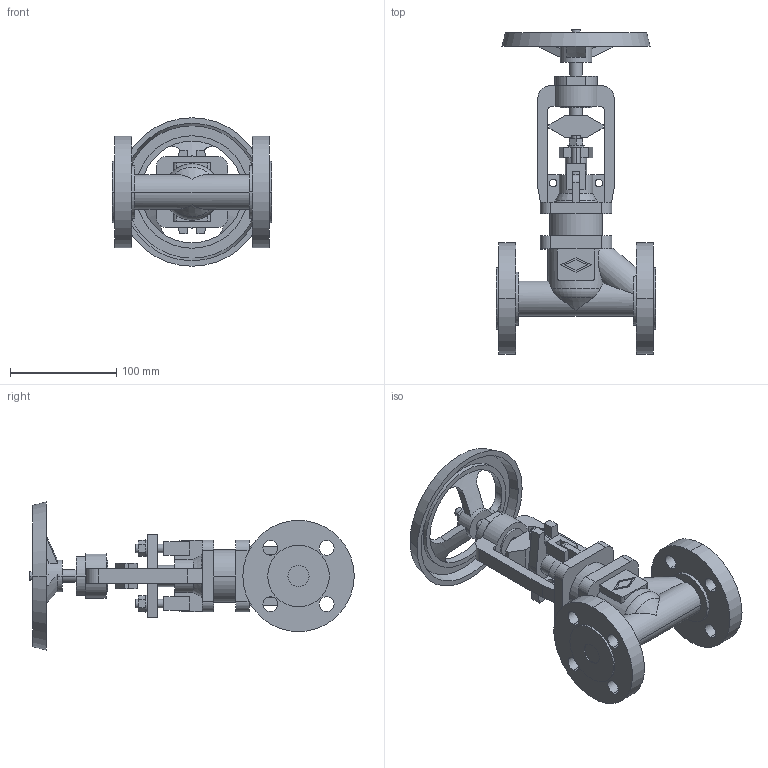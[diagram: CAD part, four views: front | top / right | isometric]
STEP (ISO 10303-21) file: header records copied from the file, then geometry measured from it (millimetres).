
FILE_DESCRIPTION(('OneSpaceDesigner STEP Export'),'2;1');
FILE_NAME('c000004285.stp','2010-05-05T10:28:55',(''),(''),'OneSpace Designer STEP processor for AP214 (Solid Model)','OneSpace Modeling 15.50B 03-Nov-2007 (C) CoCreate Software GmbH','');
FILE_SCHEMA(('AUTOMOTIVE_DESIGN { 1 0 10303 214 1 1 1 1 }'));
Length unit declared in the file: millimetre
Products named in the file (1): 1
Bounding box: 150 x 305.9 x 140 mm (x, y, z)
Volume: 866490.7 mm3; surface area: 160718.6 mm2
Topology: 1 solids, 1 shells, 293 faces, 772 edges, 507 vertices
Faces by surface type: plane 154, cylinder 113, cone 20, torus 6
Entity records: 11327 total; most frequent: CARTESIAN_POINT 2029, ORIENTED_EDGE 1544, DIRECTION 1306, EDGE_CURVE 772, VERTEX_POINT 507, VECTOR 448, LINE 448, AXIS2_PLACEMENT_3D 429
